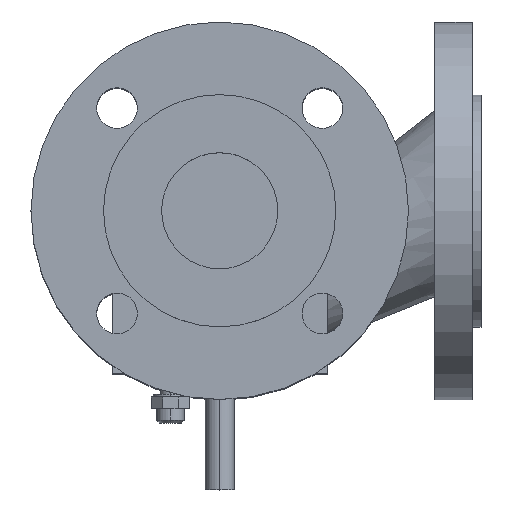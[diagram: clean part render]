
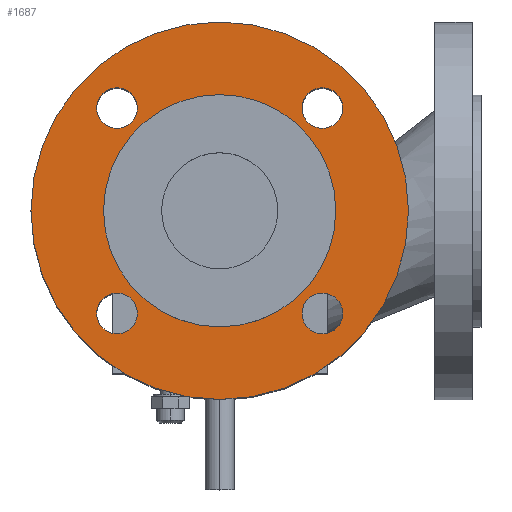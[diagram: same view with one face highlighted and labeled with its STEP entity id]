
A CAD part, top view. The second image highlights one B-rep face of the part: STEP entity #1687.
In plain terms, the highlighted planar face has unit normal (0, 0, 1).
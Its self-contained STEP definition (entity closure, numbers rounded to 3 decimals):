
#1159=CARTESIAN_POINT('',(0.,65.,177.));
#1160=VERTEX_POINT('',#1159);
#1176=CARTESIAN_POINT('',(0.,-65.,177.));
#1177=VERTEX_POINT('',#1176);
#1184=CARTESIAN_POINT('',(0.,0.,177.));
#1185=DIRECTION('',(0.0,0.0,1.0));
#1186=DIRECTION('',(0.0,1.0,0.0));
#1187=AXIS2_PLACEMENT_3D('',#1184,#1185,#1186);
#1188=CIRCLE('',#1187,65.0);
#1189=EDGE_CURVE('',#1160,#1177,#1188,.T.);
#1199=CARTESIAN_POINT('',(40.305,40.305,177.));
#1200=VERTEX_POINT('',#1199);
#1209=CARTESIAN_POINT('',(30.406,30.406,177.));
#1210=VERTEX_POINT('',#1209);
#1211=CARTESIAN_POINT('',(35.355,35.355,177.));
#1212=DIRECTION('',(0.,0.,-1.0));
#1213=DIRECTION('',(0.707,0.707,0.));
#1214=AXIS2_PLACEMENT_3D('',#1211,#1212,#1213);
#1215=CIRCLE('',#1214,7.);
#1216=EDGE_CURVE('',#1210,#1200,#1215,.T.);
#1241=CARTESIAN_POINT('',(-40.305,-40.305,177.));
#1242=VERTEX_POINT('',#1241);
#1251=CARTESIAN_POINT('',(-30.406,-30.406,177.));
#1252=VERTEX_POINT('',#1251);
#1253=CARTESIAN_POINT('',(-35.355,-35.355,177.));
#1254=DIRECTION('',(0.,0.,-1.0));
#1255=DIRECTION('',(-0.707,-0.707,0.));
#1256=AXIS2_PLACEMENT_3D('',#1253,#1254,#1255);
#1257=CIRCLE('',#1256,7.);
#1258=EDGE_CURVE('',#1252,#1242,#1257,.T.);
#1283=CARTESIAN_POINT('',(-40.305,40.305,177.));
#1284=VERTEX_POINT('',#1283);
#1293=CARTESIAN_POINT('',(-30.406,30.406,177.));
#1294=VERTEX_POINT('',#1293);
#1295=CARTESIAN_POINT('',(-35.355,35.355,177.));
#1296=DIRECTION('',(0.,0.,-1.0));
#1297=DIRECTION('',(-0.707,0.707,0.));
#1298=AXIS2_PLACEMENT_3D('',#1295,#1296,#1297);
#1299=CIRCLE('',#1298,7.);
#1300=EDGE_CURVE('',#1294,#1284,#1299,.T.);
#1325=CARTESIAN_POINT('',(40.305,-40.305,177.));
#1326=VERTEX_POINT('',#1325);
#1335=CARTESIAN_POINT('',(30.406,-30.406,177.));
#1336=VERTEX_POINT('',#1335);
#1337=CARTESIAN_POINT('',(35.355,-35.355,177.));
#1338=DIRECTION('',(0.,0.,-1.0));
#1339=DIRECTION('',(0.707,-0.707,0.));
#1340=AXIS2_PLACEMENT_3D('',#1337,#1338,#1339);
#1341=CIRCLE('',#1340,7.);
#1342=EDGE_CURVE('',#1336,#1326,#1341,.T.);
#1367=CARTESIAN_POINT('',(0.,40.,177.));
#1368=VERTEX_POINT('',#1367);
#1377=CARTESIAN_POINT('',(0.,-40.,177.));
#1378=VERTEX_POINT('',#1377);
#1379=CARTESIAN_POINT('',(0.,0.,177.));
#1380=DIRECTION('',(0.0,0.0,-1.0));
#1381=DIRECTION('',(0.0,1.0,0.0));
#1382=AXIS2_PLACEMENT_3D('',#1379,#1380,#1381);
#1383=CIRCLE('',#1382,40.0);
#1384=EDGE_CURVE('',#1378,#1368,#1383,.T.);
#1544=CARTESIAN_POINT('',(0.,0.,177.));
#1545=DIRECTION('',(0.0,0.0,-1.0));
#1546=DIRECTION('',(0.0,1.0,0.0));
#1547=AXIS2_PLACEMENT_3D('',#1544,#1545,#1546);
#1548=CIRCLE('',#1547,40.0);
#1549=EDGE_CURVE('',#1368,#1378,#1548,.T.);
#1576=CARTESIAN_POINT('',(35.355,-35.355,177.));
#1577=DIRECTION('',(0.,0.,-1.0));
#1578=DIRECTION('',(0.707,-0.707,0.));
#1579=AXIS2_PLACEMENT_3D('',#1576,#1577,#1578);
#1580=CIRCLE('',#1579,7.);
#1581=EDGE_CURVE('',#1326,#1336,#1580,.T.);
#1594=CARTESIAN_POINT('',(-35.355,35.355,177.));
#1595=DIRECTION('',(0.,0.,-1.0));
#1596=DIRECTION('',(-0.707,0.707,0.));
#1597=AXIS2_PLACEMENT_3D('',#1594,#1595,#1596);
#1598=CIRCLE('',#1597,7.);
#1599=EDGE_CURVE('',#1284,#1294,#1598,.T.);
#1612=CARTESIAN_POINT('',(-35.355,-35.355,177.));
#1613=DIRECTION('',(0.,0.,-1.0));
#1614=DIRECTION('',(-0.707,-0.707,0.));
#1615=AXIS2_PLACEMENT_3D('',#1612,#1613,#1614);
#1616=CIRCLE('',#1615,7.);
#1617=EDGE_CURVE('',#1242,#1252,#1616,.T.);
#1630=CARTESIAN_POINT('',(35.355,35.355,177.));
#1631=DIRECTION('',(0.,0.,-1.0));
#1632=DIRECTION('',(0.707,0.707,0.));
#1633=AXIS2_PLACEMENT_3D('',#1630,#1631,#1632);
#1634=CIRCLE('',#1633,7.);
#1635=EDGE_CURVE('',#1200,#1210,#1634,.T.);
#1646=CARTESIAN_POINT('',(0.,0.,177.));
#1647=DIRECTION('',(0.0,0.0,1.0));
#1648=DIRECTION('',(0.0,1.0,0.0));
#1649=AXIS2_PLACEMENT_3D('',#1646,#1647,#1648);
#1650=CIRCLE('',#1649,65.0);
#1651=EDGE_CURVE('',#1177,#1160,#1650,.T.);
#1658=CARTESIAN_POINT('',(0.,0.,177.));
#1659=DIRECTION('',(0.0,0.0,1.0));
#1660=DIRECTION('',(0.0,1.0,0.0));
#1661=AXIS2_PLACEMENT_3D('',#1658,#1659,#1660);
#1662=PLANE('',#1661);
#1663=ORIENTED_EDGE('',*,*,#1189,.T.);
#1664=ORIENTED_EDGE('',*,*,#1651,.T.);
#1665=EDGE_LOOP('',(#1663,#1664));
#1666=FACE_OUTER_BOUND('',#1665,.T.);
#1667=ORIENTED_EDGE('',*,*,#1549,.T.);
#1668=ORIENTED_EDGE('',*,*,#1384,.T.);
#1669=EDGE_LOOP('',(#1667,#1668));
#1670=FACE_BOUND('',#1669,.T.);
#1671=ORIENTED_EDGE('',*,*,#1581,.T.);
#1672=ORIENTED_EDGE('',*,*,#1342,.T.);
#1673=EDGE_LOOP('',(#1671,#1672));
#1674=FACE_BOUND('',#1673,.T.);
#1675=ORIENTED_EDGE('',*,*,#1599,.T.);
#1676=ORIENTED_EDGE('',*,*,#1300,.T.);
#1677=EDGE_LOOP('',(#1675,#1676));
#1678=FACE_BOUND('',#1677,.T.);
#1679=ORIENTED_EDGE('',*,*,#1617,.T.);
#1680=ORIENTED_EDGE('',*,*,#1258,.T.);
#1681=EDGE_LOOP('',(#1679,#1680));
#1682=FACE_BOUND('',#1681,.T.);
#1683=ORIENTED_EDGE('',*,*,#1635,.T.);
#1684=ORIENTED_EDGE('',*,*,#1216,.T.);
#1685=EDGE_LOOP('',(#1683,#1684));
#1686=FACE_BOUND('',#1685,.T.);
#1687=ADVANCED_FACE('',(#1666,#1670,#1674,#1678,#1682,#1686),#1662,.T.);
